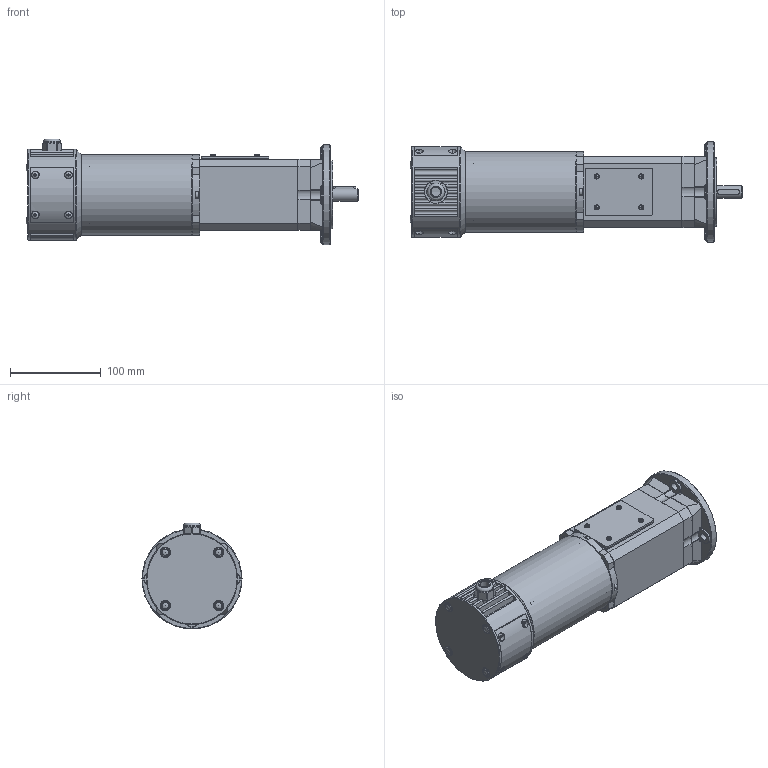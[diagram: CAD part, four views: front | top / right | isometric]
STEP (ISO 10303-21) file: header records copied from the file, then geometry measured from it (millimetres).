
FILE_DESCRIPTION(/* description */ ('Vite a testa cilindrica'),/* implementation_level */ '2;1');
FILE_NAME(/* name */ 'C:\Users\giuseppe.caruso.MINIMOTOR\Desktop\PAC MP4N 10,27 B5.stp',/* time_stamp */ '2014-10-14T17:11:54+02:00',/* author */ ('giuseppe.caruso'),/* organization */ (''),/* preprocessor_version */ 'ST-DEVELOPER v15.6',/* originating_system */ 'Autodesk Inventor 2015',/* authorisation */ '');
FILE_SCHEMA (('CONFIG_CONTROL_DESIGN'));
Length unit declared in the file: millimetre
Products named in the file (46): VCE530Z; VTC306; VCE420; VTC408; VCE412; SPN010; SRD020; CPR011; CUR008-5; CUR008-4; CUR008-3; CUR008-2; CUR008-1; CUR008; ING224; CUS017-9; CUS017-8; CUS017-7; CUS017-6; CUS017-5; CUS017-4; CUS017-3; CUS017-2; CUS017-1; CUS017; CRT013; ASA017; ASF047; OR001; CHI005; CPR011Z19; GRN016; TPP009; TRG072; STT032; MGN001S; MGN001N; STT032C; CUF045; CUF055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
Assembly tree (75 placements, depth 4):
  PAC MP4N 10,27 B5
    VCE530Z  x4
    VTC306  x4
    VCE420  x4
    VTC408  x8
    VCE412  x8
    SPN010
    SRD020
    CPR011Z19
      CPR011
      CUR008
        CUR008-5
        CUR008-4
        CUR008-3
        CUR008-2
        CUR008-1
      ING224
      CUS017
        CUS017-9
        CUS017-8
        CUS017-7
        CUS017-6
        CUS017-5
        CUS017-4
        CUS017-3
        CUS017-2
        CUS017-1
      CRT013
      ASA017
      ASF047
      OR001
      CHI005
    GRN016
    TPP009
    TRG072
    STT032C
      STT032
      MGN001S  x2
      MGN001N  x2
    CUF045
    CUF055
    GRN025  x2
    CUF051-CSA  x2
    BOC001
    TPP008  x4
    FLG010
Bounding box: 365 x 110 x 116.5 mm (x, y, z)
Volume: 1041309.1 mm3; surface area: 408631.3 mm2
Topology: 78 solids, 78 shells, 2720 faces, 6947 edges, 4511 vertices
Faces by surface type: plane 1478, cylinder 773, cone 330, torus 115, sphere 24
Full cylindrical faces by diameter (mm): 1.6 x1, 1.7 x2, 2.1 x4, 2.459 x5, 2.5 x2, 2.6 x1, 2.729 x4, 3 x6, 3.242 x29, 3.5 x8, 4 x35, 4.134 x9, 4.2 x4, 4.5 x24, 5 x4, 5.5 x8, 6.647 x1, 6.85 x4, 7 x12, 7.5 x4, 7.6 x1, 8 x8, 8.4 x4, 8.5 x22, 9 x4, 9.85 x4, 10 x7, 12 x12, 14 x1, 14.376 x1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
Entity records: 55975 total; most frequent: CARTESIAN_POINT 11364, DIRECTION 9227, ORIENTED_EDGE 8362, EDGE_CURVE 4181, AXIS2_PLACEMENT_3D 3365, VERTEX_POINT 2927, LINE 2497, VECTOR 2497
